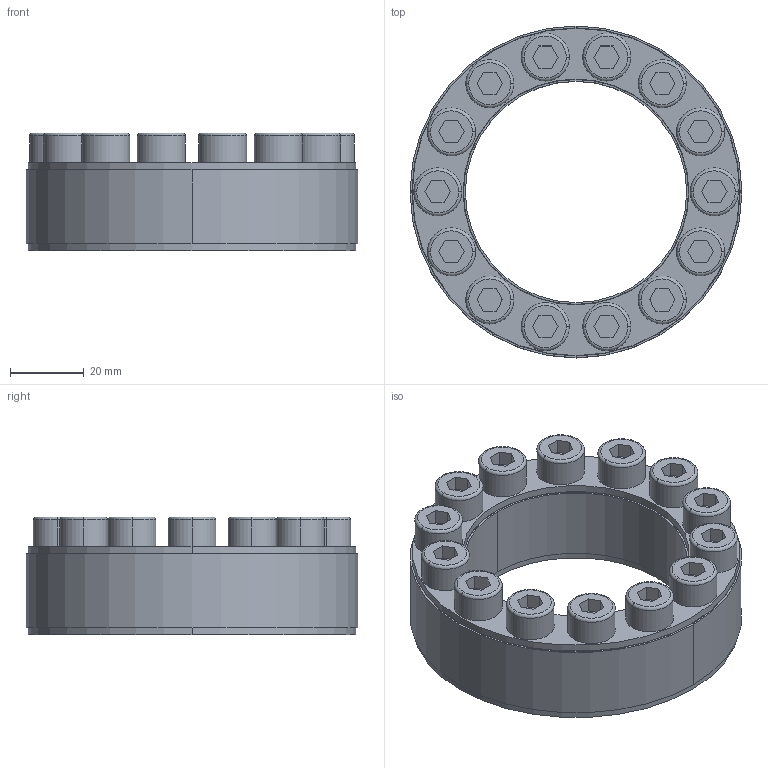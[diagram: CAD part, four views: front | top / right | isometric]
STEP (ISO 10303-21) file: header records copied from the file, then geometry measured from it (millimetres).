
FILE_DESCRIPTION((''),'2;1');
FILE_NAME('398-017-0060','2024-02-16T',('Brieden'),('Brieden'),'PRO/ENGINEER BY PARAMETRIC TECHNOLOGY CORPORATION, 2010160','PRO/ENGINEER BY PARAMETRIC TECHNOLOGY CORPORATION, 2010160','');
FILE_SCHEMA(('AUTOMOTIVE_DESIGN { 1 0 10303 214 1 1 1 1 }'));
Length unit declared in the file: millimetre
Products named in the file (1): 398-017-0060
Bounding box: 90 x 90 x 32 mm (x, y, z)
Volume: 89838 mm3; surface area: 56116.4 mm2
Topology: 4 solids, 4 shells, 348 faces, 780 edges, 496 vertices
Faces by surface type: plane 148, cylinder 128, cone 44, torus 28
Entity records: 12374 total; most frequent: DIRECTION 1834, CARTESIAN_POINT 1626, ORIENTED_EDGE 1560, PRESENTATION_STYLE_ASSIGNMENT 802, STYLED_ITEM 784, CURVE_STYLE 780, EDGE_CURVE 780, AXIS2_PLACEMENT_3D 705
